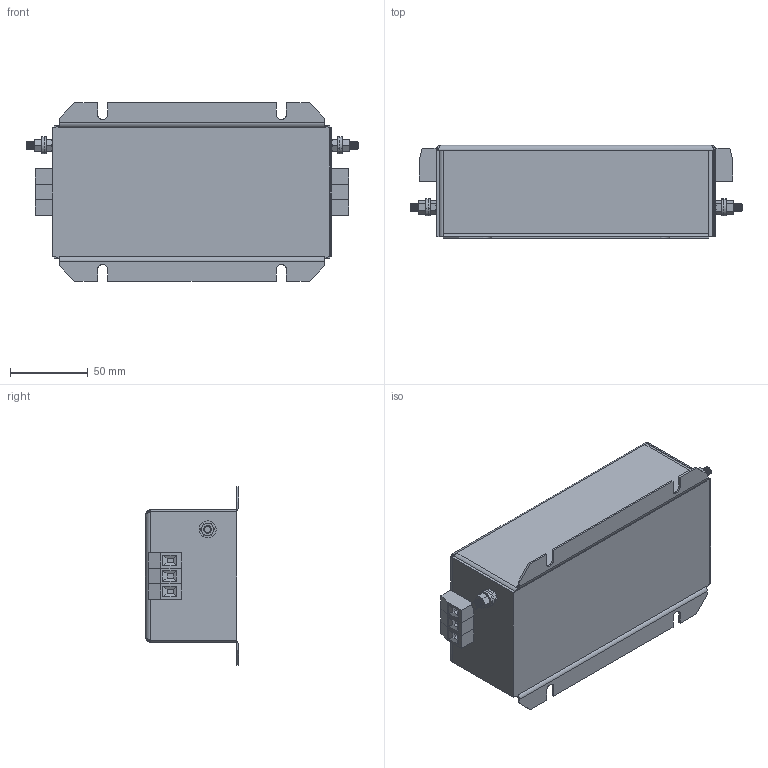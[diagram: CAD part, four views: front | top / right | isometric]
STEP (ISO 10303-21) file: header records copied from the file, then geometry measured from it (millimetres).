
FILE_DESCRIPTION (( 'STEP AP203' ), '1' );
FILE_NAME ('NF-8.STEP', '2022-07-22T10:14:13', ( '' ), ( '' ), 'SwSTEP 2.0', 'SolidWorks 2017', '' );
FILE_SCHEMA (( 'CONFIG_CONTROL_DESIGN' ));
Length unit declared in the file: millimetre
Products named in the file (8): VDFK-4; hex nut style 1_am_B18.2.4.1M - Hex nut, Style 1,  M5 x 0.8 --D-N; M5x20 Earth post; VDFK4x3; hex screw_am_B18.6.7M - M5 x 0.8 x 13 Indented HHMS --13S; NF-8 & 16; flat washer narrow_am_B18.22M - Plain washer, 5 mm, narrow
Assembly tree (12 placements, depth 3):
  NF-8 & 16
    NF-8 & 16
    VDFK4x3  x2
      VDFK-4
    M5x20 Earth post  x2
      flat washer narrow_am_B18.22M - Plain washer, 5 mm, narrow
      hex nut style 1_am_B18.2.4.1M - Hex nut, Style 1,  M5 x 0.8 --D-N
      hex screw_am_B18.6.7M - M5 x 0.8 x 13 Indented HHMS --13S
Bounding box: 213.6 x 60 x 115 mm (x, y, z)
Volume: 918133.3 mm3; surface area: 110504.4 mm2
Topology: 15 solids, 15 shells, 650 faces, 1598 edges, 1006 vertices
Faces by surface type: plane 310, cone 176, cylinder 156, bspline 8
Entity records: 10539 total; most frequent: CARTESIAN_POINT 2235, DIRECTION 1603, ORIENTED_EDGE 1506, EDGE_CURVE 753, AXIS2_PLACEMENT_3D 604, VERTEX_POINT 468, VECTOR 395, LINE 395
